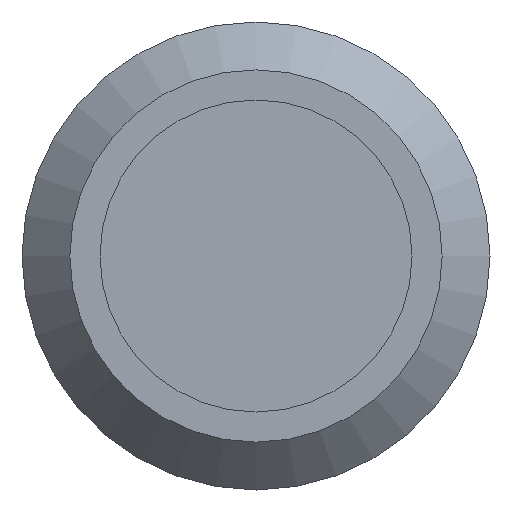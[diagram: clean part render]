
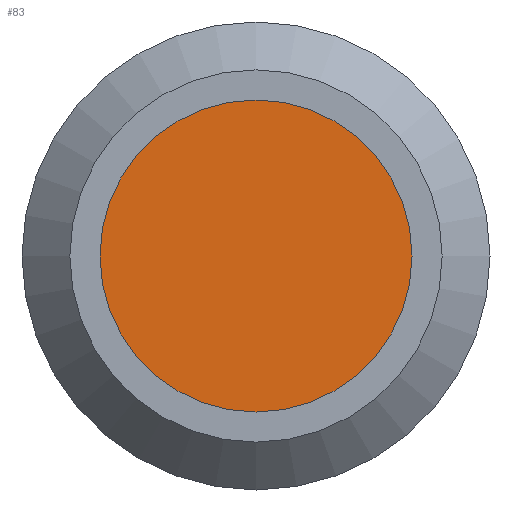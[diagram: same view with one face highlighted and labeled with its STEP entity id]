
A CAD part, front view. The second image highlights one B-rep face of the part: STEP entity #83.
In plain terms, the highlighted planar face has unit normal (0, -1, 0).
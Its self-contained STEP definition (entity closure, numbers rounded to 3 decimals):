
#83 = ADVANCED_FACE( '', ( #107 ), #108, .F. );
#107 = FACE_OUTER_BOUND( '', #141, .T. );
#108 = PLANE( '', #142 );
#141 = EDGE_LOOP( '', ( #219 ) );
#142 = AXIS2_PLACEMENT_3D( '', #220, #221, #222 );
#219 = ORIENTED_EDGE( '', *, *, #267, .T. );
#220 = CARTESIAN_POINT( '', ( 2., 0., 0. ) );
#221 = DIRECTION( '', ( 0., 1., 0. ) );
#222 = DIRECTION( '', ( 0., 0., 1. ) );
#267 = EDGE_CURVE( '', #304, #304, #305, .T. );
#304 = VERTEX_POINT( '', #364 );
#305 = CIRCLE( '', #365, 2. );
#364 = CARTESIAN_POINT( '', ( 0., 0., -2. ) );
#365 = AXIS2_PLACEMENT_3D( '', #395, #396, #397 );
#395 = CARTESIAN_POINT( '', ( 0., 0., 0. ) );
#396 = DIRECTION( '', ( 0., -1., 0. ) );
#397 = DIRECTION( '', ( 0., 0., -1. ) );
